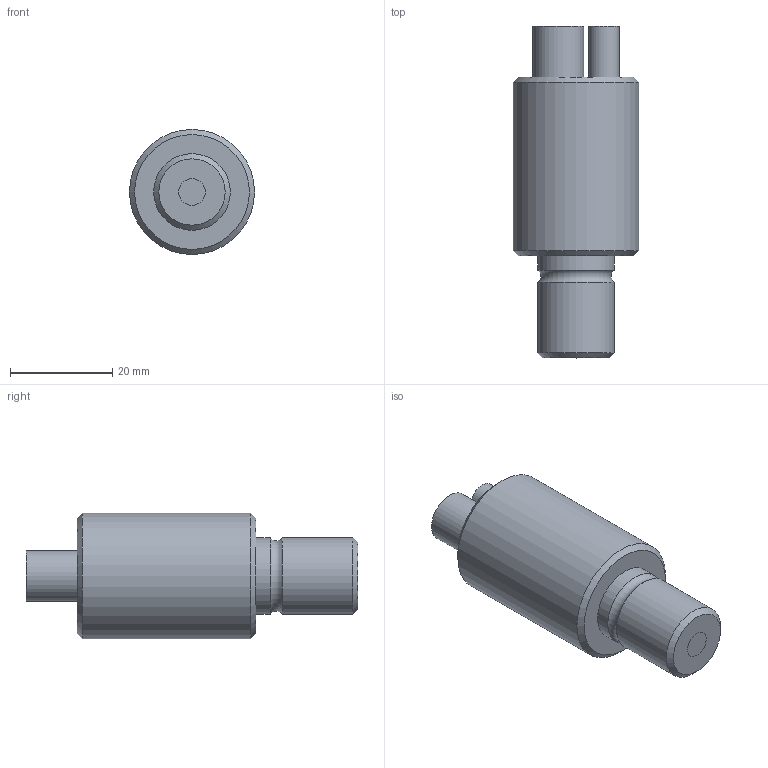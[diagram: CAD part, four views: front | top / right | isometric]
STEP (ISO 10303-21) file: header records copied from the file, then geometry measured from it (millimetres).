
FILE_DESCRIPTION(/* description */ (''),/* implementation_level */ '2;1');
FILE_NAME(/* name */ '',/* time_stamp */ '2024-01-17T11:55:19+09:00',/* author */ (''),/* organization */ (''),/* preprocessor_version */ 'ST-DEVELOPER v20',/* originating_system */ 'Autodesk Translation Framework v12.14.0.127',/* authorisation */ '');
FILE_SCHEMA (('AUTOMOTIVE_DESIGN { 1 0 10303 214 3 1 1 }'));
Length unit declared in the file: millimetre
Products named in the file (1): FB-LGC1-5L 共通受光部
Bounding box: 24.5 x 65 x 24.5 mm (x, y, z)
Volume: 20959.4 mm3; surface area: 6289.3 mm2
Topology: 6 solids, 6 shells, 29 faces, 40 edges, 25 vertices
Faces by surface type: plane 14, cylinder 11, cone 3, torus 1
Full cylindrical faces by diameter (mm): 1.5 x2, 5 x2, 5.2 x2, 6 x1, 10 x1, 15 x2, 24.5 x1
Entity records: 656 total; most frequent: DIRECTION 126, CARTESIAN_POINT 95, ORIENTED_EDGE 80, AXIS2_PLACEMENT_3D 56, EDGE_CURVE 40, EDGE_LOOP 35, FACE_OUTER_BOUND 29, ADVANCED_FACE 29
